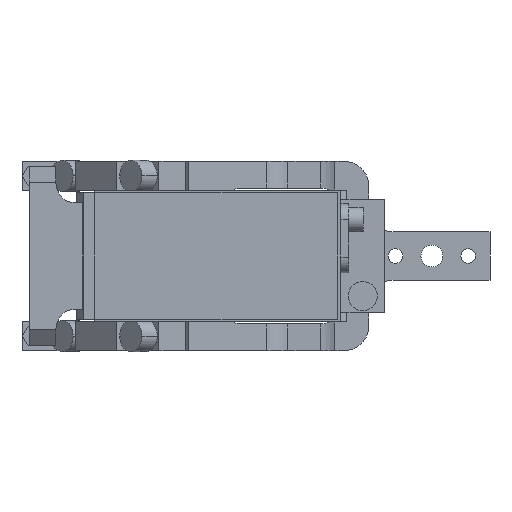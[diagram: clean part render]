
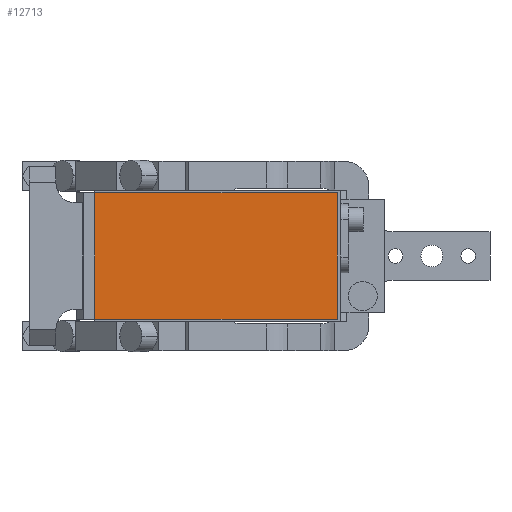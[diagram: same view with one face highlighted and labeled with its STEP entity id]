
A CAD part, front view. The second image highlights one B-rep face of the part: STEP entity #12713.
In plain terms, the highlighted planar face has unit normal (0, -1, 0).
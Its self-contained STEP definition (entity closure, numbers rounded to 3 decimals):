
#29 = DIRECTION ( 'NONE',  ( 0., 0., -1. ) ) ;
#95 = CARTESIAN_POINT ( 'NONE',  ( 0., -286.5, 0. ) ) ;
#254 = CARTESIAN_POINT ( 'NONE',  ( -19., -286.5, 26. ) ) ;
#981 = ORIENTED_EDGE ( 'NONE', *, *, #10613, .T. ) ;
#1035 = LINE ( 'NONE', #15011, #10728 ) ;
#1442 = ORIENTED_EDGE ( 'NONE', *, *, #4967, .T. ) ;
#2195 = CARTESIAN_POINT ( 'NONE',  ( 81., -286.5, 26. ) ) ;
#2275 = ORIENTED_EDGE ( 'NONE', *, *, #11133, .T. ) ;
#2503 = VERTEX_POINT ( 'NONE', #7861 ) ;
#3004 = DIRECTION ( 'NONE',  ( 0., 0., -1. ) ) ;
#3210 = LINE ( 'NONE', #8273, #14389 ) ;
#4638 = ORIENTED_EDGE ( 'NONE', *, *, #10034, .T. ) ;
#4967 = EDGE_CURVE ( 'NONE', #13286, #5218, #7037, .T. ) ;
#5017 = CARTESIAN_POINT ( 'NONE',  ( 81., -286.5, 26. ) ) ;
#5047 = VECTOR ( 'NONE', #9337, 1000. ) ;
#5218 = VERTEX_POINT ( 'NONE', #5017 ) ;
#6523 = DIRECTION ( 'NONE',  ( 0., -1., 0. ) ) ;
#6953 = PLANE ( 'NONE',  #9562 ) ;
#7037 = LINE ( 'NONE', #2195, #5047 ) ;
#7861 = CARTESIAN_POINT ( 'NONE',  ( -19., -286.5, -26. ) ) ;
#8271 = CARTESIAN_POINT ( 'NONE',  ( 81., -286.5, -26. ) ) ;
#8273 = CARTESIAN_POINT ( 'NONE',  ( -19., -286.5, 26. ) ) ;
#9259 = DIRECTION ( 'NONE',  ( -1., 0., 0. ) ) ;
#9337 = DIRECTION ( 'NONE',  ( 0., 0., 1. ) ) ;
#9404 = DIRECTION ( 'NONE',  ( 1., 0., 0. ) ) ;
#9562 = AXIS2_PLACEMENT_3D ( 'NONE', #95, #6523, #3004 ) ;
#9706 = VECTOR ( 'NONE', #29, 1000. ) ;
#9919 = VERTEX_POINT ( 'NONE', #11331 ) ;
#10034 = EDGE_CURVE ( 'NONE', #2503, #13286, #1035, .T. ) ;
#10541 = LINE ( 'NONE', #254, #9706 ) ;
#10613 = EDGE_CURVE ( 'NONE', #9919, #2503, #10541, .T. ) ;
#10728 = VECTOR ( 'NONE', #9404, 1000. ) ;
#11133 = EDGE_CURVE ( 'NONE', #5218, #9919, #3210, .T. ) ;
#11331 = CARTESIAN_POINT ( 'NONE',  ( -19., -286.5, 26. ) ) ;
#12713 = ADVANCED_FACE ( 'NONE', ( #13916 ), #6953, .T. ) ;
#13286 = VERTEX_POINT ( 'NONE', #8271 ) ;
#13916 = FACE_OUTER_BOUND ( 'NONE', #14981, .T. ) ;
#14389 = VECTOR ( 'NONE', #9259, 1000. ) ;
#14981 = EDGE_LOOP ( 'NONE', ( #981, #4638, #1442, #2275 ) ) ;
#15011 = CARTESIAN_POINT ( 'NONE',  ( -19., -286.5, -26. ) ) ;
